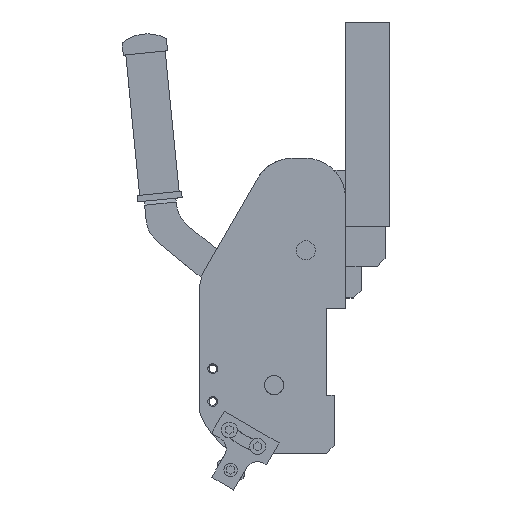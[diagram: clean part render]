
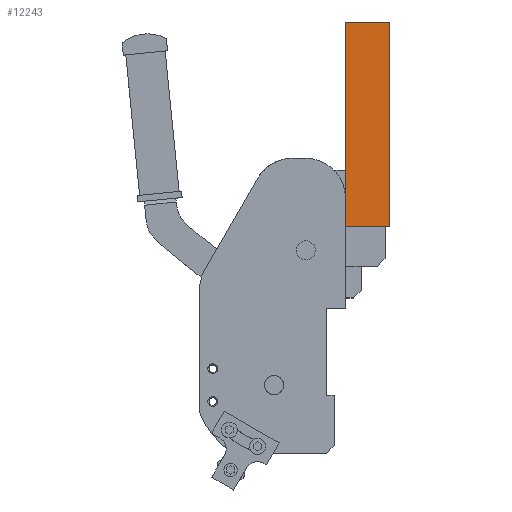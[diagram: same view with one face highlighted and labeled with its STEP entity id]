
A CAD part, top view. The second image highlights one B-rep face of the part: STEP entity #12243.
In plain terms, the highlighted planar face has unit normal (0, 0, 1) as drawn and (0, 0, -1) by its records, which use the part's own axes.
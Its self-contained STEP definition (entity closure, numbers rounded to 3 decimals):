
#210 = DIRECTION ( 'NONE',  ( 1., 0., 0. ) ) ;
#461 = VECTOR ( 'NONE', #2689, 1000. ) ;
#1566 = EDGE_CURVE ( 'NONE', #8494, #8025, #2734, .T. ) ;
#1669 = DIRECTION ( 'NONE',  ( 0., 0., 1. ) ) ;
#2050 = DIRECTION ( 'NONE',  ( -1., 0., 0. ) ) ;
#2121 = CARTESIAN_POINT ( 'NONE',  ( 129., 0., -10. ) ) ;
#2197 = LINE ( 'NONE', #2121, #5477 ) ;
#2689 = DIRECTION ( 'NONE',  ( -1., 0., 0. ) ) ;
#2699 = CARTESIAN_POINT ( 'NONE',  ( 129., 0., -10. ) ) ;
#2734 = LINE ( 'NONE', #2699, #461 ) ;
#3004 = CARTESIAN_POINT ( 'NONE',  ( 129., 28., -10. ) ) ;
#3370 = DIRECTION ( 'NONE',  ( 0., -1., 0. ) ) ;
#3437 = CARTESIAN_POINT ( 'NONE',  ( 129., 28., -10. ) ) ;
#3454 = CARTESIAN_POINT ( 'NONE',  ( 0., 0., -10. ) ) ;
#3517 = LINE ( 'NONE', #3437, #5881 ) ;
#4163 = DIRECTION ( 'NONE',  ( -1., 0., 0. ) ) ;
#4320 = PLANE ( 'NONE',  #7826 ) ;
#4506 = CARTESIAN_POINT ( 'NONE',  ( 0., 28., -10. ) ) ;
#4669 = CARTESIAN_POINT ( 'NONE',  ( 129., 28., -10. ) ) ;
#4903 = EDGE_CURVE ( 'NONE', #8025, #8072, #2197, .T. ) ;
#5306 = EDGE_CURVE ( 'NONE', #8226, #8164, #3517, .T. ) ;
#5433 = CARTESIAN_POINT ( 'NONE',  ( 129., 0., -10. ) ) ;
#5477 = VECTOR ( 'NONE', #2050, 1000. ) ;
#5881 = VECTOR ( 'NONE', #3370, 1000. ) ;
#6763 = ORIENTED_EDGE ( 'NONE', *, *, #5306, .T. ) ;
#6767 = ORIENTED_EDGE ( 'NONE', *, *, #11595, .T. ) ;
#6778 = ORIENTED_EDGE ( 'NONE', *, *, #1566, .T. ) ;
#7393 = CARTESIAN_POINT ( 'NONE',  ( 129., 0., -10. ) ) ;
#7826 = AXIS2_PLACEMENT_3D ( 'NONE', #3004, #1669, #210 ) ;
#8025 = VERTEX_POINT ( 'NONE', #12166 ) ;
#8072 = VERTEX_POINT ( 'NONE', #3454 ) ;
#8100 = DIRECTION ( 'NONE',  ( 0., -1., 0. ) ) ;
#8104 = EDGE_LOOP ( 'NONE', ( #6763, #6767, #6778, #8173, #8194, #8114 ) ) ;
#8114 = ORIENTED_EDGE ( 'NONE', *, *, #10941, .T. ) ;
#8164 = VERTEX_POINT ( 'NONE', #7393 ) ;
#8173 = ORIENTED_EDGE ( 'NONE', *, *, #4903, .T. ) ;
#8194 = ORIENTED_EDGE ( 'NONE', *, *, #11340, .F. ) ;
#8226 = VERTEX_POINT ( 'NONE', #4669 ) ;
#8232 = FACE_OUTER_BOUND ( 'NONE', #8104, .T. ) ;
#8246 = LINE ( 'NONE', #5433, #9622 ) ;
#8381 = VERTEX_POINT ( 'NONE', #4506 ) ;
#8494 = VERTEX_POINT ( 'NONE', #8827 ) ;
#8827 = CARTESIAN_POINT ( 'NONE',  ( 35.5, 0., -10. ) ) ;
#9261 = CARTESIAN_POINT ( 'NONE',  ( 0., 28., -10. ) ) ;
#9622 = VECTOR ( 'NONE', #4163, 1000. ) ;
#9683 = DIRECTION ( 'NONE',  ( 1., 0., 0. ) ) ;
#10375 = LINE ( 'NONE', #9261, #10613 ) ;
#10613 = VECTOR ( 'NONE', #8100, 1000. ) ;
#10807 = CARTESIAN_POINT ( 'NONE',  ( 0., 28., -10. ) ) ;
#10941 = EDGE_CURVE ( 'NONE', #8381, #8226, #12026, .T. ) ;
#11340 = EDGE_CURVE ( 'NONE', #8381, #8072, #10375, .T. ) ;
#11595 = EDGE_CURVE ( 'NONE', #8164, #8494, #8246, .T. ) ;
#11902 = VECTOR ( 'NONE', #9683, 1000. ) ;
#12026 = LINE ( 'NONE', #10807, #11902 ) ;
#12166 = CARTESIAN_POINT ( 'NONE',  ( 0.5, 0., -10. ) ) ;
#12243 = ADVANCED_FACE ( 'NONE', ( #8232 ), #4320, .F. ) ;
